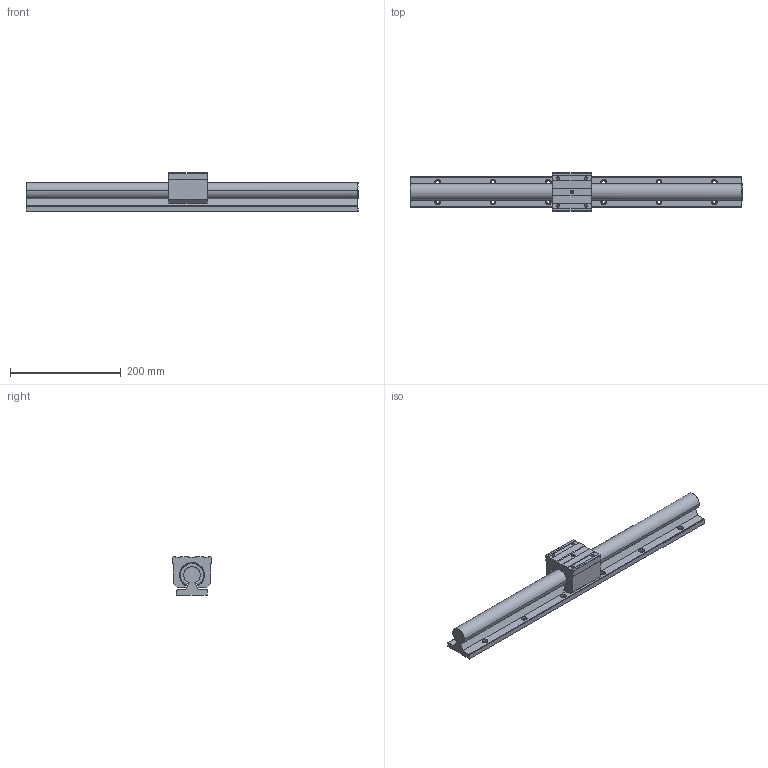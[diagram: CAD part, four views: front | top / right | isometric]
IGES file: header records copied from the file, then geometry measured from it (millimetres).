
Global section: file name: No Iges File Name specified; native system: AutoDesk Inventor R10; preprocessor: AutoDesk Inventor Iges Exporter R10; author: No Author specified; organization: No Organization specified; date: 20101221.091224; units: millimetre
Bounding box: 600 x 70 x 70 mm (x, y, z)
Surface area: 167637 mm2 (no closed solid volume)
Topology: 0 solids, 0 shells, 176 faces, 1256 edges, 1246 vertices
Faces by surface type: bspline 176
